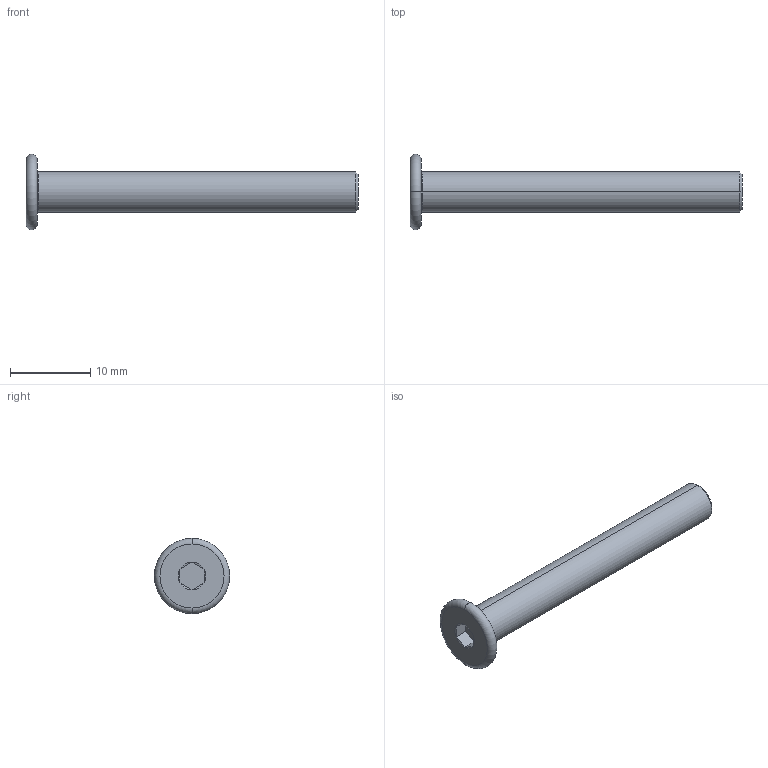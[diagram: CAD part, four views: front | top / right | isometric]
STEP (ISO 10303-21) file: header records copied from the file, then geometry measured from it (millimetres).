
FILE_DESCRIPTION (( 'STEP AP203' ), '1' );
FILE_NAME ('LGD-304M-M5x40.STEP', '2026-08-13T12:26:26', ( '' ), ( '' ), 'SwSTEP 2.0', 'SolidWorks 2020', '' );
FILE_SCHEMA (( 'CONFIG_CONTROL_DESIGN' ));
Length unit declared in the file: millimetre
Products named in the file (1): LGD-304M-M5x40
Bounding box: 41.4 x 9.4 x 9.4 mm (x, y, z)
Volume: 862.6 mm3; surface area: 804 mm2
Topology: 1 solids, 1 shells, 24 faces, 44 edges, 24 vertices
Faces by surface type: plane 10, cone 8, torus 4, cylinder 2
Entity records: 673 total; most frequent: CARTESIAN_POINT 119, DIRECTION 110, ORIENTED_EDGE 88, AXIS2_PLACEMENT_3D 47, EDGE_CURVE 44, EDGE_LOOP 26, FACE_OUTER_BOUND 24, ADVANCED_FACE 24
